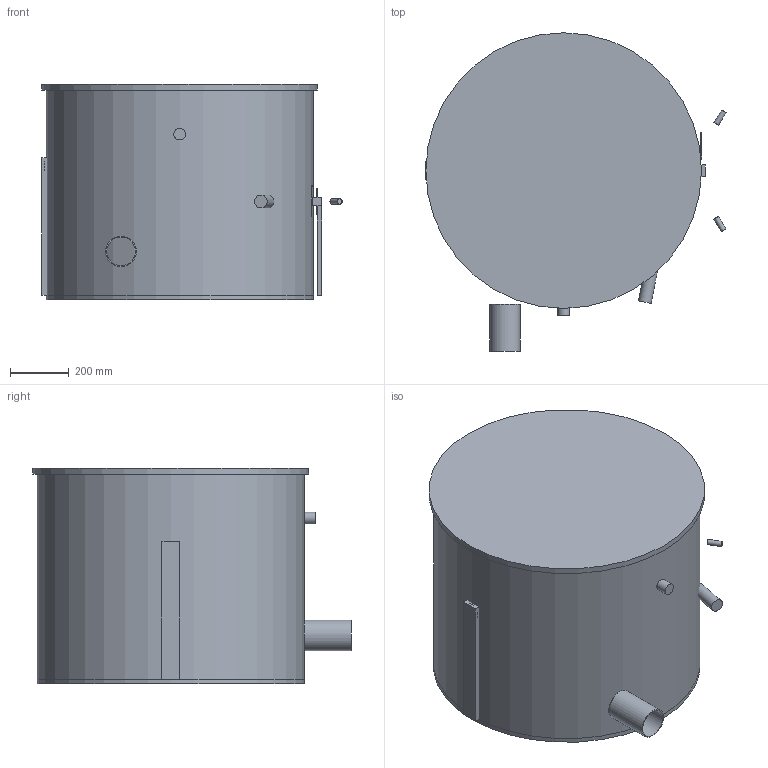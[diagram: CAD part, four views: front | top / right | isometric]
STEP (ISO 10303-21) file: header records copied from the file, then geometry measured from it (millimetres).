
FILE_DESCRIPTION(('Open CASCADE Model'),'2;1');
FILE_NAME('Open CASCADE Shape Model','2026-11-13T06:57:28',('Author'),( 'Open CASCADE'),'Open CASCADE STEP processor 7.9','Open CASCADE 7.9' ,'Unknown');
FILE_SCHEMA(('AUTOMOTIVE_DESIGN { 1 0 10303 214 1 1 1 1 }'));
Length unit declared in the file: millimetre
Products named in the file (28): T5_X1_balance; 00_CHAMBER; 01_FLOOR; 02_LID; 03_POST; 04_PIVOT; 05_ARM; 06_BOX; 07_BOX_LID; 08_BOX_HANGER; 09_X1_DEVICE; 10_X1_BATTERY; 11_SENSE_PATCH; 12_GROUND_SWITCH; 13_COUNTERWEIGHT; 14_VC_MAGNET; 15_VC_COIL; 16_VC_BRACKET; 17_CAP_SENSOR; 18_SENSOR_POST; 19_UV1_COLLIMATOR; 20_UV2_COLLIMATOR; 21_COLLECTOR; 22_E_FLOOD_GUN; 23_ESV_PROBE; 24_ESV_POST; 25_FIBRE_FT; 26_PUMP_PORT
Assembly tree (27 placements, depth 2):
  T5_X1_balance
    00_CHAMBER
    01_FLOOR
    02_LID
    03_POST
    04_PIVOT
    05_ARM
    06_BOX
    07_BOX_LID
    08_BOX_HANGER
    09_X1_DEVICE
    10_X1_BATTERY
    11_SENSE_PATCH
    12_GROUND_SWITCH
    13_COUNTERWEIGHT
    14_VC_MAGNET
    15_VC_COIL
    16_VC_BRACKET
    17_CAP_SENSOR
    18_SENSOR_POST
    19_UV1_COLLIMATOR
    20_UV2_COLLIMATOR
    21_COLLECTOR
    22_E_FLOOD_GUN
    23_ESV_PROBE
    24_ESV_POST
    25_FIBRE_FT
    26_PUMP_PORT
Bounding box: 1024.13 x 1085 x 735 mm (x, y, z)
Volume: 47556855.4 mm3; surface area: 7950822 mm2
Topology: 27 solids, 29 shells, 142 faces, 252 edges, 168 vertices
Faces by surface type: plane 126, cylinder 16
Full cylindrical faces by diameter (mm): 18 x2, 28 x1, 30 x1, 40 x2, 44 x1, 60 x1, 64 x1, 80 x1, 98 x1, 104 x1, 890 x1, 910 x2, 940 x1
Entity records: 7355 total; most frequent: DIRECTION 1128, CARTESIAN_POINT 1094, LINE 692, VECTOR 692, ORIENTED_EDGE 504, PCURVE 504, DEFINITIONAL_REPRESENTATION 504, EDGE_CURVE 252
